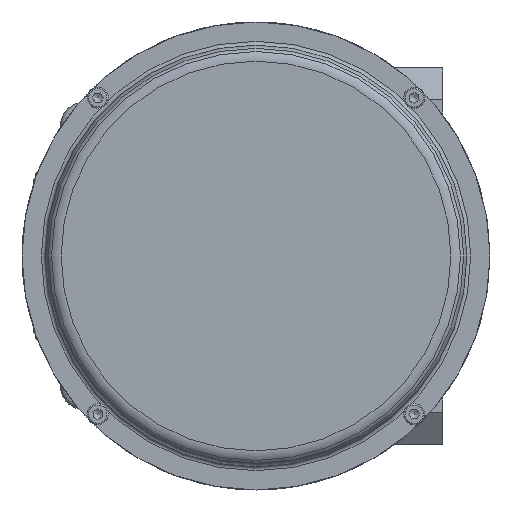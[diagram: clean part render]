
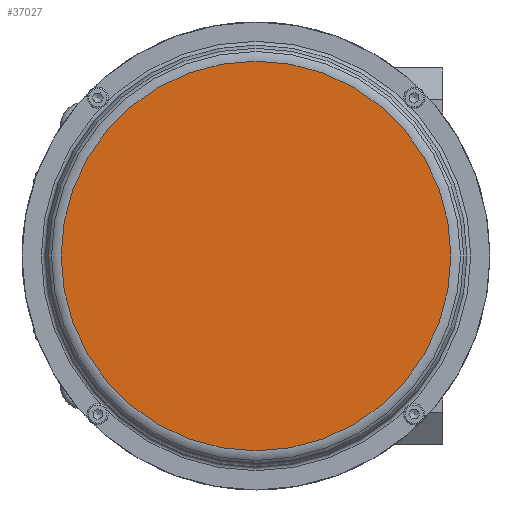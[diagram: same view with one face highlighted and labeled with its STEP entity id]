
A CAD part, left-side view. The second image highlights one B-rep face of the part: STEP entity #37027.
In plain terms, the highlighted planar face has unit normal (-1, 0, 0).
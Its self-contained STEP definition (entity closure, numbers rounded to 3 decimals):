
#2038=PLANE('',#40071);
#5824=FACE_OUTER_BOUND('',#7911,.T.);
#7911=EDGE_LOOP('',(#33770));
#15726=CIRCLE('',#40070,122.);
#19025=VERTEX_POINT('',#65399);
#24005=EDGE_CURVE('',#19025,#19025,#15726,.T.);
#33770=ORIENTED_EDGE('',*,*,#24005,.F.);
#37027=ADVANCED_FACE('',(#5824),#2038,.T.);
#40070=AXIS2_PLACEMENT_3D('',#65401,#48755,#48756);
#40071=AXIS2_PLACEMENT_3D('',#65402,#48757,#48758);
#48755=DIRECTION('center_axis',(1.,0.,0.));
#48756=DIRECTION('ref_axis',(0.,-1.,0.));
#48757=DIRECTION('center_axis',(-1.,0.,0.));
#48758=DIRECTION('ref_axis',(0.,0.,
1.));
#65399=CARTESIAN_POINT('',(-266.,0.,122.));
#65401=CARTESIAN_POINT('Origin',(-266.,0.,0.));
#65402=CARTESIAN_POINT('Origin',(-266.,-61.,0.));
